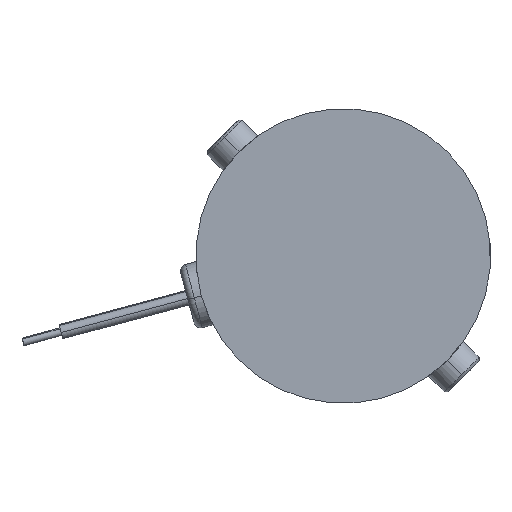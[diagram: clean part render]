
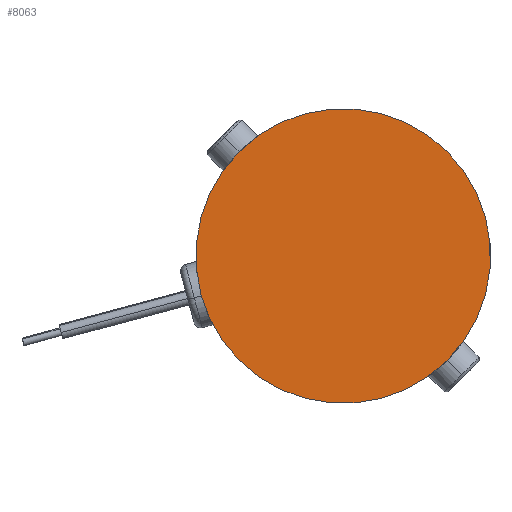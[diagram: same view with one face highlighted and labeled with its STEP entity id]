
A CAD part, left-side view. The second image highlights one B-rep face of the part: STEP entity #8063.
In plain terms, the highlighted planar face has unit normal (-1, 0, 0).
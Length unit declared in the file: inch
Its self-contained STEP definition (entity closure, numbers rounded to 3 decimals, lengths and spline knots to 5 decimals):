
#477 = AXIS2_PLACEMENT_3D ( 'NONE', #3065, #7993, #2474 ) ;
#1694 = CARTESIAN_POINT ( 'NONE',  ( -5.40487, 3.72848, -3.73857 ) ) ;
#1848 = EDGE_LOOP ( 'NONE', ( #2013, #6041 ) ) ;
#2013 = ORIENTED_EDGE ( 'NONE', *, *, #6108, .F. ) ;
#2070 = CIRCLE ( 'NONE', #477, 1.125 ) ;
#2474 = DIRECTION ( 'NONE',  ( 0., -0.707, -0.707 ) ) ;
#2539 = EDGE_CURVE ( 'NONE', #4049, #3923, #2070, .T. ) ;
#3065 = CARTESIAN_POINT ( 'NONE',  ( -5.40487, 3.72848, -3.73857 ) ) ;
#3923 = VERTEX_POINT ( 'NONE', #4077 ) ;
#4049 = VERTEX_POINT ( 'NONE', #8414 ) ;
#4077 = CARTESIAN_POINT ( 'NONE',  ( -5.40487, 4.52397, -2.94308 ) ) ;
#4237 = AXIS2_PLACEMENT_3D ( 'NONE', #1694, #5047, #6541 ) ;
#4360 = AXIS2_PLACEMENT_3D ( 'NONE', #4375, #6501, #5774 ) ;
#4375 = CARTESIAN_POINT ( 'NONE',  ( -5.40487, 3.72848, -3.73857 ) ) ;
#4889 = FACE_OUTER_BOUND ( 'NONE', #1848, .T. ) ;
#5047 = DIRECTION ( 'NONE',  ( 1., 0., 0. ) ) ;
#5774 = DIRECTION ( 'NONE',  ( 0., -0.707, -0.707 ) ) ;
#5802 = CIRCLE ( 'NONE', #4237, 1.125 ) ;
#6041 = ORIENTED_EDGE ( 'NONE', *, *, #2539, .F. ) ;
#6108 = EDGE_CURVE ( 'NONE', #3923, #4049, #5802, .T. ) ;
#6439 = PLANE ( 'NONE',  #4360 ) ;
#6501 = DIRECTION ( 'NONE',  ( 1., 0., 0. ) ) ;
#6541 = DIRECTION ( 'NONE',  ( 0., -0.707, -0.707 ) ) ;
#7993 = DIRECTION ( 'NONE',  ( 1., 0., 0. ) ) ;
#8063 = ADVANCED_FACE ( 'NONE', ( #4889 ), #6439, .F. ) ;
#8414 = CARTESIAN_POINT ( 'NONE',  ( -5.40487, 2.93298, -4.53407 ) ) ;
